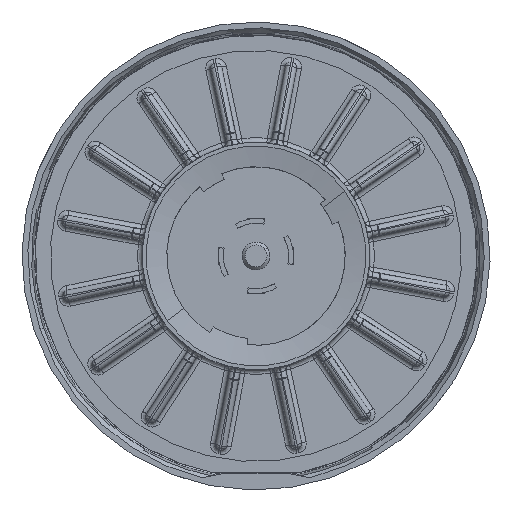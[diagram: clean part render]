
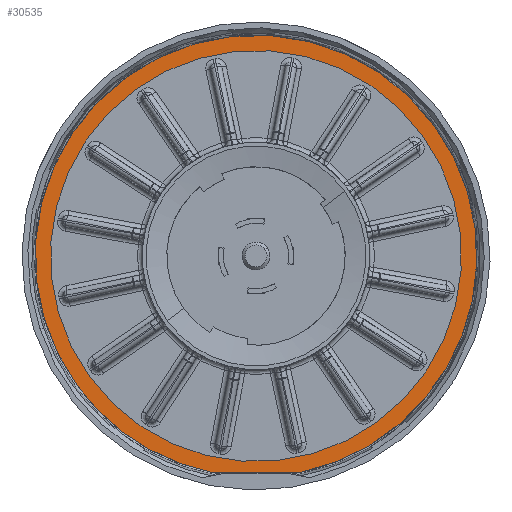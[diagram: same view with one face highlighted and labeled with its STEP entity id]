
A CAD part, front view. The second image highlights one B-rep face of the part: STEP entity #30535.
In plain terms, the highlighted planar face has unit normal (0, -1, 0).
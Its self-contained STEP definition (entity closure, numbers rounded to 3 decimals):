
#1846 = EDGE_CURVE ( 'NONE', #22934, #12635, #8495, .T. ) ;
#3625 = VERTEX_POINT ( 'NONE', #17670 ) ;
#4185 = DIRECTION ( 'NONE',  ( -1., 0., 0. ) ) ;
#4349 = AXIS2_PLACEMENT_3D ( 'NONE', #30147, #29901, #18380 ) ;
#4981 = DIRECTION ( 'NONE',  ( 0.809, 0., 0.588 ) ) ;
#5306 = EDGE_CURVE ( 'NONE', #35767, #9969, #21728, .T. ) ;
#5307 = ORIENTED_EDGE ( 'NONE', *, *, #5306, .T. ) ;
#5472 = DIRECTION ( 'NONE',  ( 0., 1., 0. ) ) ;
#5847 = AXIS2_PLACEMENT_3D ( 'NONE', #34793, #21020, #6837 ) ;
#6409 = CARTESIAN_POINT ( 'NONE',  ( -23.088, -0.387, 54.649 ) ) ;
#6528 = DIRECTION ( 'NONE',  ( -0.809, 0., -0.588 ) ) ;
#6606 = ORIENTED_EDGE ( 'NONE', *, *, #8741, .T. ) ;
#6747 = VERTEX_POINT ( 'NONE', #8207 ) ;
#6837 = DIRECTION ( 'NONE',  ( -0.809, 0., -0.588 ) ) ;
#8207 = CARTESIAN_POINT ( 'NONE',  ( -2.486, -0.387, 38.419 ) ) ;
#8495 = CIRCLE ( 'NONE', #4349, 37.6 ) ;
#8741 = EDGE_CURVE ( 'NONE', #9969, #35767, #31840, .T. ) ;
#9969 = VERTEX_POINT ( 'NONE', #24993 ) ;
#11013 = DIRECTION ( 'NONE',  ( 0., 1., 0. ) ) ;
#11690 = EDGE_LOOP ( 'NONE', ( #6606, #5307 ) ) ;
#12037 = EDGE_CURVE ( 'NONE', #6747, #22934, #34855, .T. ) ;
#12635 = VERTEX_POINT ( 'NONE', #29828 ) ;
#13934 = LINE ( 'NONE', #21243, #34810 ) ;
#14517 = EDGE_CURVE ( 'NONE', #3625, #6747, #13934, .T. ) ;
#14750 = CARTESIAN_POINT ( 'NONE',  ( 35.651, -0.387, 97.316 ) ) ;
#15778 = ORIENTED_EDGE ( 'NONE', *, *, #12037, .F. ) ;
#15823 = EDGE_LOOP ( 'NONE', ( #32308, #16570, #19714, #29591, #15778 ) ) ;
#16452 = DIRECTION ( 'NONE',  ( 0., -1., 0. ) ) ;
#16569 = PLANE ( 'NONE',  #20737 ) ;
#16570 = ORIENTED_EDGE ( 'NONE', *, *, #26042, .F. ) ;
#17482 = DIRECTION ( 'NONE',  ( -0.588, 0., 0.809 ) ) ;
#17499 = CIRCLE ( 'NONE', #5847, 37.6 ) ;
#17670 = CARTESIAN_POINT ( 'NONE',  ( 12.944, -0.387, 38.418 ) ) ;
#17977 = CARTESIAN_POINT ( 'NONE',  ( 5.23, -0.387, 75.219 ) ) ;
#18015 = LINE ( 'NONE', #33994, #31329 ) ;
#18380 = DIRECTION ( 'NONE',  ( -0.809, 0., -0.588 ) ) ;
#18421 = VERTEX_POINT ( 'NONE', #14750 ) ;
#19714 = ORIENTED_EDGE ( 'NONE', *, *, #21377, .T. ) ;
#20737 = AXIS2_PLACEMENT_3D ( 'NONE', #27971, #16452, #36405 ) ;
#20844 = DIRECTION ( 'NONE',  ( 0., 1., 0. ) ) ;
#21020 = DIRECTION ( 'NONE',  ( 0., 1., 0. ) ) ;
#21243 = CARTESIAN_POINT ( 'NONE',  ( 20.229, -0.387, 38.418 ) ) ;
#21377 = EDGE_CURVE ( 'NONE', #18421, #12635, #18015, .T. ) ;
#21728 = CIRCLE ( 'NONE', #25548, 35. ) ;
#22519 = CARTESIAN_POINT ( 'NONE',  ( 5.23, -0.387, 75.219 ) ) ;
#22934 = VERTEX_POINT ( 'NONE', #25462 ) ;
#24451 = FACE_OUTER_BOUND ( 'NONE', #15823, .T. ) ;
#24993 = CARTESIAN_POINT ( 'NONE',  ( 33.548, -0.387, 95.788 ) ) ;
#25036 = DIRECTION ( 'NONE',  ( 0.809, 0., 0.588 ) ) ;
#25462 = CARTESIAN_POINT ( 'NONE',  ( -25.192, -0.387, 53.121 ) ) ;
#25548 = AXIS2_PLACEMENT_3D ( 'NONE', #30734, #11013, #25036 ) ;
#26042 = EDGE_CURVE ( 'NONE', #18421, #3625, #17499, .T. ) ;
#26655 = FACE_BOUND ( 'NONE', #11690, .T. ) ;
#27971 = CARTESIAN_POINT ( 'NONE',  ( 12.898, -0.387, 128.64 ) ) ;
#28482 = AXIS2_PLACEMENT_3D ( 'NONE', #17977, #20844, #6528 ) ;
#28704 = AXIS2_PLACEMENT_3D ( 'NONE', #22519, #5472, #4981 ) ;
#29591 = ORIENTED_EDGE ( 'NONE', *, *, #1846, .F. ) ;
#29828 = CARTESIAN_POINT ( 'NONE',  ( 35.649, -0.387, 97.32 ) ) ;
#29901 = DIRECTION ( 'NONE',  ( 0., 1., 0. ) ) ;
#30147 = CARTESIAN_POINT ( 'NONE',  ( 5.23, -0.387, 75.219 ) ) ;
#30535 = ADVANCED_FACE ( 'NONE', ( #24451, #26655 ), #16569, .T. ) ;
#30734 = CARTESIAN_POINT ( 'NONE',  ( 5.23, -0.387, 75.219 ) ) ;
#31329 = VECTOR ( 'NONE', #17482, 1000. ) ;
#31840 = CIRCLE ( 'NONE', #28704, 35. ) ;
#32308 = ORIENTED_EDGE ( 'NONE', *, *, #14517, .F. ) ;
#33994 = CARTESIAN_POINT ( 'NONE',  ( 12.898, -0.387, 128.64 ) ) ;
#34793 = CARTESIAN_POINT ( 'NONE',  ( 5.23, -0.387, 75.219 ) ) ;
#34810 = VECTOR ( 'NONE', #4185, 1000. ) ;
#34855 = CIRCLE ( 'NONE', #28482, 37.6 ) ;
#35767 = VERTEX_POINT ( 'NONE', #6409 ) ;
#36405 = DIRECTION ( 'NONE',  ( -0.809, 0., -0.588 ) ) ;
